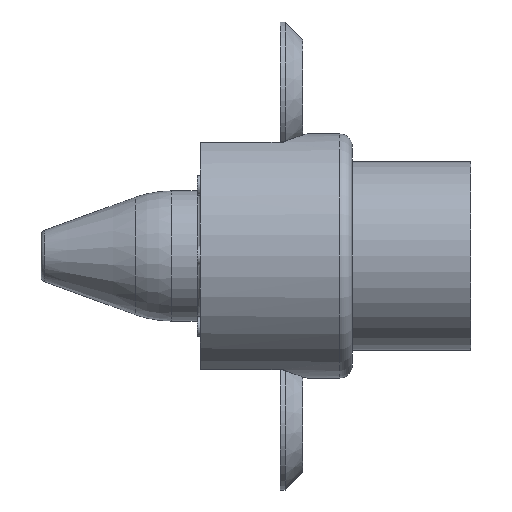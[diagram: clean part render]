
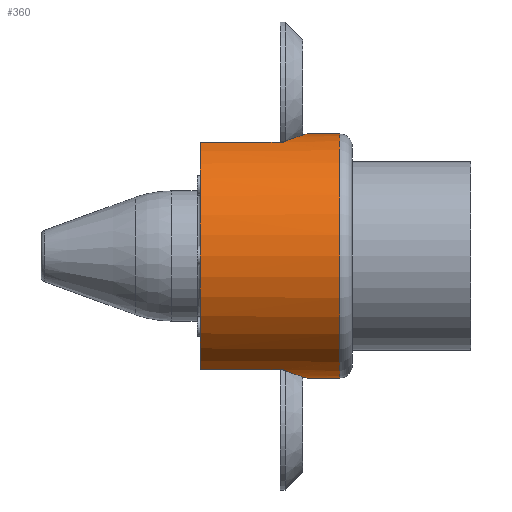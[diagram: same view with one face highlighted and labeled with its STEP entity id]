
A CAD part, left-side view. The second image highlights one B-rep face of the part: STEP entity #360.
In plain terms, the highlighted cylindrical face has radius 15 mm (diameter 30 mm), a partial arc.
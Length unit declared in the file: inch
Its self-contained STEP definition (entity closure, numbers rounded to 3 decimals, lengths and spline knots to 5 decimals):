
#10 = AXIS2_PLACEMENT_3D ( 'NONE', #351, #1329, #506 ) ;
#11 = VERTEX_POINT ( 'NONE', #1203 ) ;
#31 = CARTESIAN_POINT ( 'NONE',  ( -0.01027, 0.21654, 0.59055 ) ) ;
#40 = CARTESIAN_POINT ( 'NONE',  ( -0.21274, 0.33513, 0.5509 ) ) ;
#47 = CARTESIAN_POINT ( 'NONE',  ( -0.21274, 0.735, -0.5509 ) ) ;
#53 = CARTESIAN_POINT ( 'NONE',  ( 0., 0.21654, -0.59055 ) ) ;
#76 = CARTESIAN_POINT ( 'NONE',  ( -0.19353, 0.31522, -0.55815 ) ) ;
#105 = B_SPLINE_CURVE_WITH_KNOTS ( 'NONE', 3,
 ( #1158, #1484, #347, #1811, #1334, #673, #1475, #1988, #1809, #489, #999, #1007, #31, #1970 ),
 .UNSPECIFIED., .F., .F.,
 ( 4, 2, 2, 2, 2, 2, 4 ),
 ( 0.00017, 0.00172, 0.00327, 0.00405, 0.00482, 0.0056, 0.00638 ),
 .UNSPECIFIED. ) ;
#137 = CARTESIAN_POINT ( 'NONE',  ( -0.21274, 0.33921, -0.5509 ) ) ;
#153 = ORIENTED_EDGE ( 'NONE', *, *, #911, .F. ) ;
#205 = EDGE_CURVE ( 'NONE', #1851, #572, #1573, .T. ) ;
#234 = CARTESIAN_POINT ( 'NONE',  ( 0., 0.21654, 0.59055 ) ) ;
#282 = EDGE_CURVE ( 'NONE', #948, #2041, #915, .T. ) ;
#311 = VERTEX_POINT ( 'NONE', #47 ) ;
#331 = ORIENTED_EDGE ( 'NONE', *, *, #486, .F. ) ;
#347 = CARTESIAN_POINT ( 'NONE',  ( -0.17864, 0.3022, 0.56312 ) ) ;
#351 = CARTESIAN_POINT ( 'NONE',  ( 0., 0.06, 0. ) ) ;
#354 = EDGE_LOOP ( 'NONE', ( #1317, #1123, #1943, #723, #331, #153, #1757, #757, #1437, #444 ) ) ;
#360 = ADVANCED_FACE ( 'NONE', ( #656 ), #2010, .T. ) ;
#373 = CARTESIAN_POINT ( 'NONE',  ( -0.17861, 0.30218, -0.56313 ) ) ;
#412 = VECTOR ( 'NONE', #637, 39.37008 ) ;
#426 = CARTESIAN_POINT ( 'NONE',  ( 0., 0.06, 0.59055 ) ) ;
#444 = ORIENTED_EDGE ( 'NONE', *, *, #1191, .T. ) ;
#458 = CARTESIAN_POINT ( 'NONE',  ( -0.20802, 0.32861, 0.5527 ) ) ;
#486 = EDGE_CURVE ( 'NONE', #311, #1865, #1935, .T. ) ;
#489 = CARTESIAN_POINT ( 'NONE',  ( -0.05041, 0.22417, 0.58847 ) ) ;
#506 = DIRECTION ( 'NONE',  ( 0., 0., 1. ) ) ;
#537 = CARTESIAN_POINT ( 'NONE',  ( -0.05039, 0.22416, -0.58848 ) ) ;
#547 = DIRECTION ( 'NONE',  ( 0., -1., 0. ) ) ;
#553 = DIRECTION ( 'NONE',  ( 0., -1., 0. ) ) ;
#572 = VERTEX_POINT ( 'NONE', #426 ) ;
#573 = DIRECTION ( 'NONE',  ( 0., 0., 1. ) ) ;
#574 = DIRECTION ( 'NONE',  ( 0., -1., 0. ) ) ;
#637 = DIRECTION ( 'NONE',  ( 0., 1., 0. ) ) ;
#656 = FACE_OUTER_BOUND ( 'NONE', #354, .T. ) ;
#673 = CARTESIAN_POINT ( 'NONE',  ( -0.10579, 0.24946, 0.58106 ) ) ;
#704 = CARTESIAN_POINT ( 'NONE',  ( -0.01027, 0.21654, -0.59055 ) ) ;
#712 = EDGE_CURVE ( 'NONE', #1536, #1851, #105, .T. ) ;
#723 = ORIENTED_EDGE ( 'NONE', *, *, #1920, .F. ) ;
#757 = ORIENTED_EDGE ( 'NONE', *, *, #282, .F. ) ;
#795 = CARTESIAN_POINT ( 'NONE',  ( -0.20802, 0.32861, 0.5527 ) ) ;
#852 = CARTESIAN_POINT ( 'NONE',  ( -0.02057, 0.21756, -0.59028 ) ) ;
#911 = EDGE_CURVE ( 'NONE', #1002, #311, #1978, .T. ) ;
#915 = B_SPLINE_CURVE_WITH_KNOTS ( 'NONE', 3,
 ( #53, #704, #852, #1179, #537, #2026, #1041, #1827, #1852, #373, #76, #1996 ),
 .UNSPECIFIED., .F., .F.,
 ( 4, 2, 2, 2, 2, 4 ),
 ( 0.00638, 0.00715, 0.00793, 0.00948, 0.01103, 0.01258 ),
 .UNSPECIFIED. ) ;
#922 = CARTESIAN_POINT ( 'NONE',  ( 0., 0.735, 0.59055 ) ) ;
#936 = AXIS2_PLACEMENT_3D ( 'NONE', #1513, #547, #1196 ) ;
#948 = VERTEX_POINT ( 'NONE', #1911 ) ;
#999 = CARTESIAN_POINT ( 'NONE',  ( -0.04045, 0.22134, 0.58925 ) ) ;
#1002 = VERTEX_POINT ( 'NONE', #1096 ) ;
#1005 = CARTESIAN_POINT ( 'NONE',  ( -0.21274, 0.33921, 0.5509 ) ) ;
#1007 = CARTESIAN_POINT ( 'NONE',  ( -0.02041, 0.21754, 0.59028 ) ) ;
#1013 = CARTESIAN_POINT ( 'NONE',  ( -0.2109, 0.33127, 0.55162 ) ) ;
#1027 = VECTOR ( 'NONE', #553, 39.37008 ) ;
#1041 = CARTESIAN_POINT ( 'NONE',  ( -0.09714, 0.24407, -0.58277 ) ) ;
#1067 = DIRECTION ( 'NONE',  ( 0., 1., 0. ) ) ;
#1068 = CARTESIAN_POINT ( 'NONE',  ( -0.21274, 0.735, 0.5509 ) ) ;
#1096 = CARTESIAN_POINT ( 'NONE',  ( -0.21274, 0.33921, -0.5509 ) ) ;
#1123 = ORIENTED_EDGE ( 'NONE', *, *, #712, .F. ) ;
#1139 = VECTOR ( 'NONE', #1258, 39.37008 ) ;
#1146 = B_SPLINE_CURVE_WITH_KNOTS ( 'NONE', 3,
 ( #137, #1583, #2080, #1733 ),
 .UNSPECIFIED., .F., .F.,
 ( 4, 4 ),
 ( 0., 0.00031 ),
 .UNSPECIFIED. ) ;
#1158 = CARTESIAN_POINT ( 'NONE',  ( -0.20802, 0.32861, 0.5527 ) ) ;
#1179 = CARTESIAN_POINT ( 'NONE',  ( -0.04058, 0.22137, -0.58924 ) ) ;
#1191 = EDGE_CURVE ( 'NONE', #11, #572, #1314, .T. ) ;
#1196 = DIRECTION ( 'NONE',  ( 0., 0., -1. ) ) ;
#1203 = CARTESIAN_POINT ( 'NONE',  ( 0., 0.06, -0.59055 ) ) ;
#1218 = CARTESIAN_POINT ( 'NONE',  ( 0., 0.735, -0.59055 ) ) ;
#1232 = LINE ( 'NONE', #1218, #2001 ) ;
#1258 = DIRECTION ( 'NONE',  ( 0., -1., 0. ) ) ;
#1314 = CIRCLE ( 'NONE', #10, 0.59055 ) ;
#1317 = ORIENTED_EDGE ( 'NONE', *, *, #205, .F. ) ;
#1329 = DIRECTION ( 'NONE',  ( 0., 1., 0. ) ) ;
#1334 = CARTESIAN_POINT ( 'NONE',  ( -0.1315, 0.26554, 0.57599 ) ) ;
#1393 = CARTESIAN_POINT ( 'NONE',  ( -0.21274, 0.59926, 0.5509 ) ) ;
#1400 = CARTESIAN_POINT ( 'NONE',  ( -0.20802, 0.32861, -0.5527 ) ) ;
#1437 = ORIENTED_EDGE ( 'NONE', *, *, #1883, .T. ) ;
#1465 = LINE ( 'NONE', #1393, #1027 ) ;
#1475 = CARTESIAN_POINT ( 'NONE',  ( -0.09695, 0.24439, 0.58261 ) ) ;
#1484 = CARTESIAN_POINT ( 'NONE',  ( -0.19354, 0.31522, 0.55815 ) ) ;
#1486 = EDGE_CURVE ( 'NONE', #1536, #1498, #1721, .T. ) ;
#1498 = VERTEX_POINT ( 'NONE', #1005 ) ;
#1513 = CARTESIAN_POINT ( 'NONE',  ( 0., 0.735, 0. ) ) ;
#1536 = VERTEX_POINT ( 'NONE', #458 ) ;
#1564 = CARTESIAN_POINT ( 'NONE',  ( 0., 0.735, 0. ) ) ;
#1573 = LINE ( 'NONE', #922, #1139 ) ;
#1578 = EDGE_CURVE ( 'NONE', #1002, #2041, #1146, .T. ) ;
#1583 = CARTESIAN_POINT ( 'NONE',  ( -0.21274, 0.33514, -0.5509 ) ) ;
#1619 = CARTESIAN_POINT ( 'NONE',  ( -0.21274, 0.59926, -0.5509 ) ) ;
#1660 = AXIS2_PLACEMENT_3D ( 'NONE', #1564, #1067, #573 ) ;
#1721 = B_SPLINE_CURVE_WITH_KNOTS ( 'NONE', 3,
 ( #795, #1013, #40, #1822 ),
 .UNSPECIFIED., .F., .F.,
 ( 4, 4 ),
 ( 0., 0.00031 ),
 .UNSPECIFIED. ) ;
#1733 = CARTESIAN_POINT ( 'NONE',  ( -0.20802, 0.32861, -0.5527 ) ) ;
#1757 = ORIENTED_EDGE ( 'NONE', *, *, #1578, .T. ) ;
#1809 = CARTESIAN_POINT ( 'NONE',  ( -0.06958, 0.23111, 0.58652 ) ) ;
#1811 = CARTESIAN_POINT ( 'NONE',  ( -0.14761, 0.27737, 0.57203 ) ) ;
#1822 = CARTESIAN_POINT ( 'NONE',  ( -0.21274, 0.33921, 0.5509 ) ) ;
#1827 = CARTESIAN_POINT ( 'NONE',  ( -0.13121, 0.26534, -0.57605 ) ) ;
#1851 = VERTEX_POINT ( 'NONE', #234 ) ;
#1852 = CARTESIAN_POINT ( 'NONE',  ( -0.14748, 0.27727, -0.57207 ) ) ;
#1865 = VERTEX_POINT ( 'NONE', #1068 ) ;
#1883 = EDGE_CURVE ( 'NONE', #948, #11, #1232, .T. ) ;
#1911 = CARTESIAN_POINT ( 'NONE',  ( 0., 0.21654, -0.59055 ) ) ;
#1920 = EDGE_CURVE ( 'NONE', #1865, #1498, #1465, .T. ) ;
#1935 = CIRCLE ( 'NONE', #1660, 0.59055 ) ;
#1943 = ORIENTED_EDGE ( 'NONE', *, *, #1486, .T. ) ;
#1970 = CARTESIAN_POINT ( 'NONE',  ( 0., 0.21654, 0.59055 ) ) ;
#1978 = LINE ( 'NONE', #1619, #412 ) ;
#1988 = CARTESIAN_POINT ( 'NONE',  ( -0.07886, 0.23522, 0.58533 ) ) ;
#1996 = CARTESIAN_POINT ( 'NONE',  ( -0.20802, 0.32861, -0.5527 ) ) ;
#2001 = VECTOR ( 'NONE', #574, 39.37008 ) ;
#2010 = CYLINDRICAL_SURFACE ( 'NONE', #936, 0.59055 ) ;
#2026 = CARTESIAN_POINT ( 'NONE',  ( -0.07933, 0.23464, -0.58552 ) ) ;
#2041 = VERTEX_POINT ( 'NONE', #1400 ) ;
#2080 = CARTESIAN_POINT ( 'NONE',  ( -0.2109, 0.33127, -0.55162 ) ) ;
